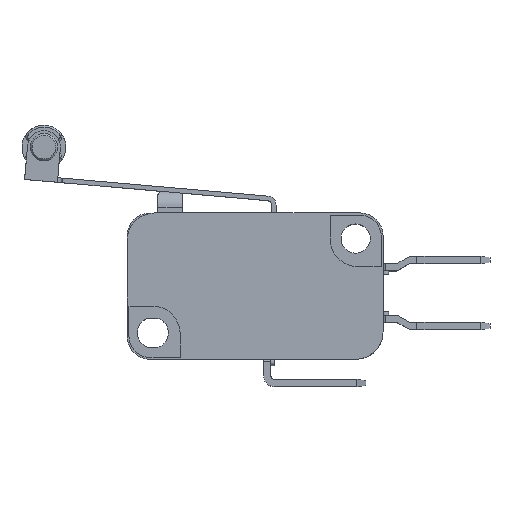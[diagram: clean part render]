
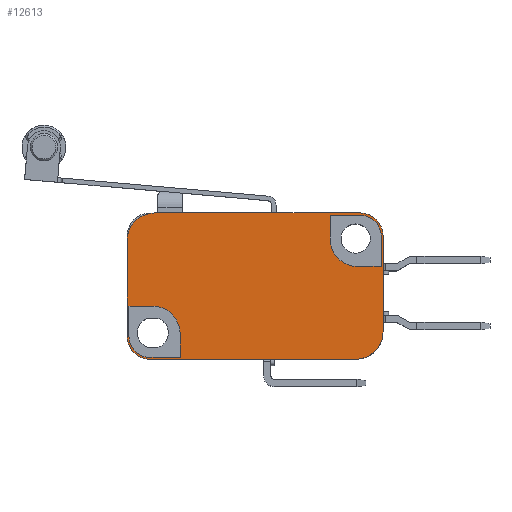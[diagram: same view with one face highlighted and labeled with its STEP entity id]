
A CAD part, top view. The second image highlights one B-rep face of the part: STEP entity #12613.
In plain terms, the highlighted planar face has unit normal (0, 0, 1).
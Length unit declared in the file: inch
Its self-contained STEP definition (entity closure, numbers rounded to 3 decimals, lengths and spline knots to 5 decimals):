
#1985=DIRECTION('',(0.,1.,0.));
#1986=VECTOR('',#1985,10.5);
#1987=CARTESIAN_POINT('',(28.,2.9,4.4));
#1988=LINE('',#1987,#1986);
#2057=DIRECTION('',(1.,0.,0.));
#2058=VECTOR('',#2057,22.5);
#2059=CARTESIAN_POINT('',(2.5,-0.1,4.4));
#2060=LINE('',#2059,#2058);
#2698=DIRECTION('',(0.,-1.,0.));
#2699=VECTOR('',#2698,10.5);
#2700=CARTESIAN_POINT('',(0.,12.9,4.4));
#2701=LINE('',#2700,#2699);
#2786=DIRECTION('',(-1.,0.,0.));
#2787=VECTOR('',#2786,22.5);
#2788=CARTESIAN_POINT('',(25.5,15.9,4.4));
#2789=LINE('',#2788,#2787);
#4111=CARTESIAN_POINT('',(3.,12.9,4.4));
#4112=DIRECTION('',(0.,0.,-1.));
#4113=DIRECTION('',(-1.,0.,0.));
#4114=AXIS2_PLACEMENT_3D('',#4111,#4112,#4113);
#4116=CARTESIAN_POINT('',(25.5,13.4,4.4));
#4117=DIRECTION('',(0.,0.,-1.));
#4118=DIRECTION('',(0.,1.,0.));
#4119=AXIS2_PLACEMENT_3D('',#4116,#4117,#4118);
#4121=CARTESIAN_POINT('',(25.,2.9,4.4));
#4122=DIRECTION('',(0.,0.,-1.));
#4123=DIRECTION('',(1.,0.,0.));
#4124=AXIS2_PLACEMENT_3D('',#4121,#4122,#4123);
#4126=CARTESIAN_POINT('',(2.5,2.4,4.4));
#4127=DIRECTION('',(0.,0.,-1.));
#4128=DIRECTION('',(0.,-1.,0.));
#4129=AXIS2_PLACEMENT_3D('',#4126,#4127,#4128);
#4131=CARTESIAN_POINT('',(2.8,2.7,4.4));
#4132=DIRECTION('',(0.,0.,1.));
#4133=DIRECTION('',(1.,0.,0.));
#4134=AXIS2_PLACEMENT_3D('',#4131,#4132,#4133);
#4136=CARTESIAN_POINT('',(2.5,2.4,4.4));
#4137=DIRECTION('',(0.,0.,1.));
#4138=DIRECTION('',(-1.,0.,0.));
#4139=AXIS2_PLACEMENT_3D('',#4136,#4137,#4138);
#4141=CARTESIAN_POINT('',(25.2,13.05,4.4));
#4142=DIRECTION('',(0.,0.,1.));
#4143=DIRECTION('',(-1.,0.,0.));
#4144=AXIS2_PLACEMENT_3D('',#4141,#4142,#4143);
#4146=CARTESIAN_POINT('',(25.5,13.35,4.4));
#4147=DIRECTION('',(0.,0.,1.));
#4148=DIRECTION('',(1.,0.,0.));
#4149=AXIS2_PLACEMENT_3D('',#4146,#4147,#4148);
#4159=DIRECTION('',(0.,-1.,0.));
#4160=VECTOR('',#4159,2.6);
#4161=CARTESIAN_POINT('',(5.8,2.7,4.4));
#4162=LINE('',#4161,#4160);
#4192=DIRECTION('',(-1.,0.,0.));
#4193=VECTOR('',#4192,3.3);
#4194=CARTESIAN_POINT('',(5.8,0.1,4.4));
#4195=LINE('',#4194,#4193);
#4208=DIRECTION('',(0.,1.,0.));
#4209=VECTOR('',#4208,3.3);
#4210=CARTESIAN_POINT('',(0.2,2.4,4.4));
#4211=LINE('',#4210,#4209);
#4232=DIRECTION('',(1.,0.,0.));
#4233=VECTOR('',#4232,2.6);
#4234=CARTESIAN_POINT('',(0.2,5.7,4.4));
#4235=LINE('',#4234,#4233);
#4429=DIRECTION('',(0.,1.,0.));
#4430=VECTOR('',#4429,2.6);
#4431=CARTESIAN_POINT('',(22.2,13.05,4.4));
#4432=LINE('',#4431,#4430);
#4457=DIRECTION('',(1.,0.,0.));
#4458=VECTOR('',#4457,3.3);
#4459=CARTESIAN_POINT('',(22.2,15.65,4.4));
#4460=LINE('',#4459,#4458);
#4473=DIRECTION('',(0.,-1.,0.));
#4474=VECTOR('',#4473,3.3);
#4475=CARTESIAN_POINT('',(27.8,13.35,4.4));
#4476=LINE('',#4475,#4474);
#4497=DIRECTION('',(-1.,0.,0.));
#4498=VECTOR('',#4497,2.6);
#4499=CARTESIAN_POINT('',(27.8,10.05,4.4));
#4500=LINE('',#4499,#4498);
#6153=CARTESIAN_POINT('',(0.,12.9,4.4));
#6154=CARTESIAN_POINT('',(3.,15.9,4.4));
#6155=VERTEX_POINT('',#6153);
#6156=VERTEX_POINT('',#6154);
#6157=CARTESIAN_POINT('',(25.5,15.9,4.4));
#6158=VERTEX_POINT('',#6157);
#6159=CARTESIAN_POINT('',(28.,13.4,4.4));
#6160=VERTEX_POINT('',#6159);
#6161=CARTESIAN_POINT('',(28.,2.9,4.4));
#6162=VERTEX_POINT('',#6161);
#6163=CARTESIAN_POINT('',(25.,-0.1,4.4));
#6164=VERTEX_POINT('',#6163);
#6165=CARTESIAN_POINT('',(2.5,-0.1,4.4));
#6166=VERTEX_POINT('',#6165);
#6167=CARTESIAN_POINT('',(0.,2.4,4.4));
#6168=VERTEX_POINT('',#6167);
#6169=CARTESIAN_POINT('',(5.8,2.7,4.4));
#6170=CARTESIAN_POINT('',(5.8,0.1,4.4));
#6171=VERTEX_POINT('',#6169);
#6172=VERTEX_POINT('',#6170);
#6173=CARTESIAN_POINT('',(0.2,5.7,4.4));
#6174=CARTESIAN_POINT('',(2.8,5.7,4.4));
#6175=VERTEX_POINT('',#6173);
#6176=VERTEX_POINT('',#6174);
#6177=CARTESIAN_POINT('',(0.2,2.4,4.4));
#6178=VERTEX_POINT('',#6177);
#6179=CARTESIAN_POINT('',(2.5,0.1,4.4));
#6180=VERTEX_POINT('',#6179);
#6181=CARTESIAN_POINT('',(22.2,13.05,4.4));
#6182=CARTESIAN_POINT('',(22.2,15.65,4.4));
#6183=VERTEX_POINT('',#6181);
#6184=VERTEX_POINT('',#6182);
#6185=CARTESIAN_POINT('',(27.8,10.05,4.4));
#6186=CARTESIAN_POINT('',(25.2,10.05,4.4));
#6187=VERTEX_POINT('',#6185);
#6188=VERTEX_POINT('',#6186);
#6189=CARTESIAN_POINT('',(27.8,13.35,4.4));
#6190=VERTEX_POINT('',#6189);
#6191=CARTESIAN_POINT('',(25.5,15.65,4.4));
#6192=VERTEX_POINT('',#6191);
#12569=CARTESIAN_POINT('',(14.,7.9,4.4));
#12570=DIRECTION('',(0.,0.,1.));
#12571=DIRECTION('',(-1.,0.,0.));
#12572=AXIS2_PLACEMENT_3D('',#12569,#12570,#12571);
#12573=PLANE('',#12572);
#12574=ORIENTED_EDGE('',*,*,#10798,.T.);
#12575=ORIENTED_EDGE('',*,*,#10814,.F.);
#12576=ORIENTED_EDGE('',*,*,#12561,.T.);
#12577=ORIENTED_EDGE('',*,*,#9849,.F.);
#12578=ORIENTED_EDGE('',*,*,#9886,.T.);
#12579=ORIENTED_EDGE('',*,*,#9961,.F.);
#12581=ORIENTED_EDGE('',*,*,#12580,.T.);
#12582=ORIENTED_EDGE('',*,*,#10748,.F.);
#12583=EDGE_LOOP('',(#12574,#12575,#12576,#12577,#12578,#12579,#12581,#12582));
#12584=FACE_OUTER_BOUND('',#12583,.F.);
#12586=ORIENTED_EDGE('',*,*,#12585,.F.);
#12588=ORIENTED_EDGE('',*,*,#12587,.T.);
#12590=ORIENTED_EDGE('',*,*,#12589,.F.);
#12592=ORIENTED_EDGE('',*,*,#12591,.F.);
#12594=ORIENTED_EDGE('',*,*,#12593,.T.);
#12596=ORIENTED_EDGE('',*,*,#12595,.F.);
#12597=EDGE_LOOP('',(#12586,#12588,#12590,#12592,#12594,#12596));
#12598=FACE_BOUND('',#12597,.F.);
#12600=ORIENTED_EDGE('',*,*,#12599,.F.);
#12602=ORIENTED_EDGE('',*,*,#12601,.T.);
#12604=ORIENTED_EDGE('',*,*,#12603,.F.);
#12606=ORIENTED_EDGE('',*,*,#12605,.F.);
#12608=ORIENTED_EDGE('',*,*,#12607,.T.);
#12610=ORIENTED_EDGE('',*,*,#12609,.F.);
#12611=EDGE_LOOP('',(#12600,#12602,#12604,#12606,#12608,#12610));
#12612=FACE_BOUND('',#12611,.F.);
#12613=ADVANCED_FACE('',(#12584,#12598,#12612),#12573,.T.);
#4115=CIRCLE('',#4114,3.);
#4120=CIRCLE('',#4119,2.5);
#4125=CIRCLE('',#4124,3.);
#4130=CIRCLE('',#4129,2.5);
#4135=CIRCLE('',#4134,3.);
#4140=CIRCLE('',#4139,2.3);
#4145=CIRCLE('',#4144,3.);
#4150=CIRCLE('',#4149,2.3);
#9849=EDGE_CURVE('',#6162,#6160,#1988,.T.);
#9886=EDGE_CURVE('',#6162,#6164,#4125,.T.);
#9961=EDGE_CURVE('',#6166,#6164,#2060,.T.);
#10748=EDGE_CURVE('',#6155,#6168,#2701,.T.);
#10798=EDGE_CURVE('',#6155,#6156,#4115,.T.);
#10814=EDGE_CURVE('',#6158,#6156,#2789,.T.);
#12561=EDGE_CURVE('',#6158,#6160,#4120,.T.);
#12580=EDGE_CURVE('',#6166,#6168,#4130,.T.);
#12585=EDGE_CURVE('',#6171,#6172,#4162,.T.);
#12587=EDGE_CURVE('',#6171,#6176,#4135,.T.);
#12589=EDGE_CURVE('',#6175,#6176,#4235,.T.);
#12591=EDGE_CURVE('',#6178,#6175,#4211,.T.);
#12593=EDGE_CURVE('',#6178,#6180,#4140,.T.);
#12595=EDGE_CURVE('',#6172,#6180,#4195,.T.);
#12599=EDGE_CURVE('',#6183,#6184,#4432,.T.);
#12601=EDGE_CURVE('',#6183,#6188,#4145,.T.);
#12603=EDGE_CURVE('',#6187,#6188,#4500,.T.);
#12605=EDGE_CURVE('',#6190,#6187,#4476,.T.);
#12607=EDGE_CURVE('',#6190,#6192,#4150,.T.);
#12609=EDGE_CURVE('',#6184,#6192,#4460,.T.);
